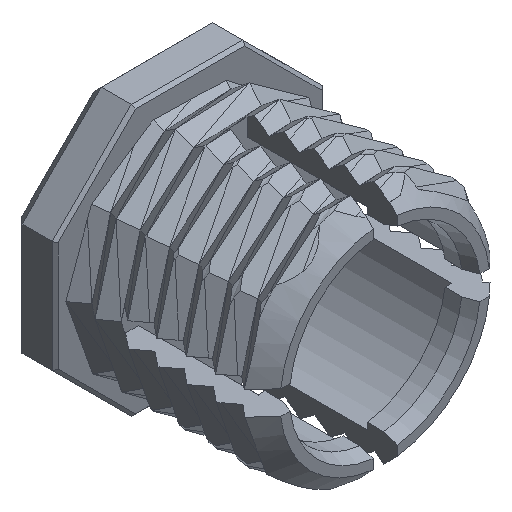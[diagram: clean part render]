
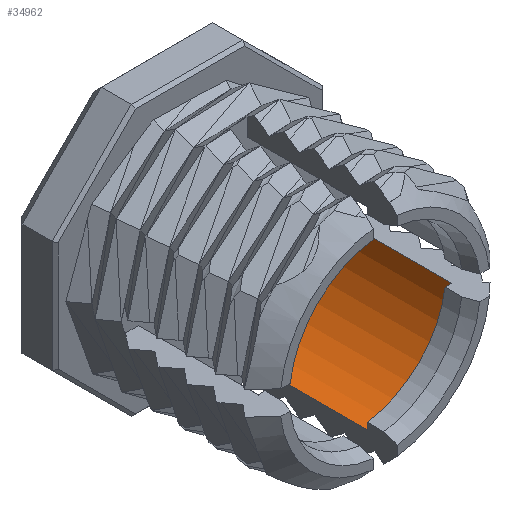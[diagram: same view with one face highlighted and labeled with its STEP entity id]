
A CAD part, isometric view. The second image highlights one B-rep face of the part: STEP entity #34962.
In plain terms, the highlighted cylindrical face has radius 8.255 mm (diameter 16.51 mm), a partial arc.
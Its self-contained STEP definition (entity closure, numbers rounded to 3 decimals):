
#322 = PLANE('',#323);
#323 = AXIS2_PLACEMENT_3D('',#324,#325,#326);
#324 = CARTESIAN_POINT('',(0.,9.29,7.939));
#325 = DIRECTION('',(0.,1.,0.));
#326 = DIRECTION('',(-1.,0.,0.));
#1311 = PLANE('',#1312);
#1312 = AXIS2_PLACEMENT_3D('',#1313,#1314,#1315);
#1313 = CARTESIAN_POINT('',(16.129,-3.41,-1.016));
#1314 = DIRECTION('',(0.,0.,-1.));
#1315 = DIRECTION('',(0.,1.,0.));
#1394 = PLANE('',#1395);
#1395 = AXIS2_PLACEMENT_3D('',#1396,#1397,#1398);
#1396 = CARTESIAN_POINT('',(1.016,-3.41,-6.059));
#1397 = DIRECTION('',(1.,0.,0.));
#1398 = DIRECTION('',(0.,1.,0.));
#2114 = VERTEX_POINT('',#2115);
#2115 = CARTESIAN_POINT('',(8.192,9.29,-1.016));
#2136 = EDGE_CURVE('',#2137,#2114,#2139,.T.);
#2137 = VERTEX_POINT('',#2138);
#2138 = CARTESIAN_POINT('',(8.192,-0.87,-1.016));
#2139 = SURFACE_CURVE('',#2140,(#2144,#2151),.PCURVE_S1.);
#2140 = LINE('',#2141,#2142);
#2141 = CARTESIAN_POINT('',(8.192,-13.201,-1.016));
#2142 = VECTOR('',#2143,1.);
#2143 = DIRECTION('',(0.,1.,0.));
#2144 = PCURVE('',#1311,#2145);
#2145 = DEFINITIONAL_REPRESENTATION('',(#2146),#2150);
#2146 = LINE('',#2147,#2148);
#2147 = CARTESIAN_POINT('',(-9.791,-7.937));
#2148 = VECTOR('',#2149,1.);
#2149 = DIRECTION('',(1.,0.));
#2150 = ( GEOMETRIC_REPRESENTATION_CONTEXT(2) 
PARAMETRIC_REPRESENTATION_CONTEXT() REPRESENTATION_CONTEXT('2D SPACE',''
  ) );
#2151 = PCURVE('',#2152,#2157);
#2152 = CYLINDRICAL_SURFACE('',#2153,8.255);
#2153 = AXIS2_PLACEMENT_3D('',#2154,#2155,#2156);
#2154 = CARTESIAN_POINT('',(0.,-13.201,0.
    ));
#2155 = DIRECTION('',(0.,-1.,0.));
#2156 = DIRECTION('',(1.,0.,0.));
#2157 = DEFINITIONAL_REPRESENTATION('',(#2158),#2161);
#2158 = B_SPLINE_CURVE_WITH_KNOTS('',1,(#2159,#2160),.UNSPECIFIED.,.F.,
  .F.,(2,2),(12.331,22.491),.PIECEWISE_BEZIER_KNOTS.);
#2159 = CARTESIAN_POINT('',(6.16,-12.331));
#2160 = CARTESIAN_POINT('',(6.16,-22.491));
#2161 = ( GEOMETRIC_REPRESENTATION_CONTEXT(2) 
PARAMETRIC_REPRESENTATION_CONTEXT() REPRESENTATION_CONTEXT('2D SPACE',''
  ) );
#2179 = PLANE('',#2180);
#2180 = AXIS2_PLACEMENT_3D('',#2181,#2182,#2183);
#2181 = CARTESIAN_POINT('',(0.,-0.87,7.685));
#2182 = DIRECTION('',(0.,1.,0.));
#2183 = DIRECTION('',(-1.,0.,0.));
#3975 = VERTEX_POINT('',#3976);
#3976 = CARTESIAN_POINT('',(1.016,-0.87,-8.192));
#3997 = EDGE_CURVE('',#3998,#3975,#4000,.T.);
#3998 = VERTEX_POINT('',#3999);
#3999 = CARTESIAN_POINT('',(1.016,9.29,-8.192));
#4000 = SURFACE_CURVE('',#4001,(#4005,#4012),.PCURVE_S1.);
#4001 = LINE('',#4002,#4003);
#4002 = CARTESIAN_POINT('',(1.016,-13.201,-8.192));
#4003 = VECTOR('',#4004,1.);
#4004 = DIRECTION('',(0.,-1.,0.));
#4005 = PCURVE('',#1394,#4006);
#4006 = DEFINITIONAL_REPRESENTATION('',(#4007),#4011);
#4007 = LINE('',#4008,#4009);
#4008 = CARTESIAN_POINT('',(-9.791,-2.134));
#4009 = VECTOR('',#4010,1.);
#4010 = DIRECTION('',(-1.,0.));
#4011 = ( GEOMETRIC_REPRESENTATION_CONTEXT(2) 
PARAMETRIC_REPRESENTATION_CONTEXT() REPRESENTATION_CONTEXT('2D SPACE',''
  ) );
#4012 = PCURVE('',#2152,#4013);
#4013 = DEFINITIONAL_REPRESENTATION('',(#4014),#4017);
#4014 = B_SPLINE_CURVE_WITH_KNOTS('',1,(#4015,#4016),.UNSPECIFIED.,.F.,
  .F.,(2,2),(-22.491,-12.331),.PIECEWISE_BEZIER_KNOTS.);
#4015 = CARTESIAN_POINT('',(4.836,-22.491));
#4016 = CARTESIAN_POINT('',(4.836,-12.331));
#4017 = ( GEOMETRIC_REPRESENTATION_CONTEXT(2) 
PARAMETRIC_REPRESENTATION_CONTEXT() REPRESENTATION_CONTEXT('2D SPACE',''
  ) );
#33480 = EDGE_CURVE('',#3998,#2114,#33481,.T.);
#33481 = SURFACE_CURVE('',#33482,(#33487,#33498),.PCURVE_S1.);
#33482 = CIRCLE('',#33483,8.255);
#33483 = AXIS2_PLACEMENT_3D('',#33484,#33485,#33486);
#33484 = CARTESIAN_POINT('',(0.,9.29,0.));
#33485 = DIRECTION('',(0.,-1.,0.));
#33486 = DIRECTION('',(1.,0.,0.));
#33487 = PCURVE('',#322,#33488);
#33488 = DEFINITIONAL_REPRESENTATION('',(#33489),#33497);
#33489 = ( BOUNDED_CURVE() B_SPLINE_CURVE(2,(#33490,#33491,#33492,#33493
    ,#33494,#33495,#33496),.UNSPECIFIED.,.T.,.F.) 
B_SPLINE_CURVE_WITH_KNOTS((1,2,2,2,2,1),(-2.094,0.,
    2.094,4.189,6.283,8.378),
.UNSPECIFIED.) CURVE() GEOMETRIC_REPRESENTATION_ITEM() 
RATIONAL_B_SPLINE_CURVE((1.,0.5,1.,0.5,1.,0.5,1.)) REPRESENTATION_ITEM(
  '') );
#33490 = CARTESIAN_POINT('',(-8.255,-7.939));
#33491 = CARTESIAN_POINT('',(-8.255,6.359));
#33492 = CARTESIAN_POINT('',(4.128,-0.79));
#33493 = CARTESIAN_POINT('',(16.51,-7.939));
#33494 = CARTESIAN_POINT('',(4.128,-15.088));
#33495 = CARTESIAN_POINT('',(-8.255,-22.237));
#33496 = CARTESIAN_POINT('',(-8.255,-7.939));
#33497 = ( GEOMETRIC_REPRESENTATION_CONTEXT(2) 
PARAMETRIC_REPRESENTATION_CONTEXT() REPRESENTATION_CONTEXT('2D SPACE',''
  ) );
#33498 = PCURVE('',#2152,#33499);
#33499 = DEFINITIONAL_REPRESENTATION('',(#33500),#33503);
#33500 = B_SPLINE_CURVE_WITH_KNOTS('',1,(#33501,#33502),.UNSPECIFIED.,
  .F.,.F.,(2,2),(4.836,6.16),
  .PIECEWISE_BEZIER_KNOTS.);
#33501 = CARTESIAN_POINT('',(4.836,-22.491));
#33502 = CARTESIAN_POINT('',(6.16,-22.491));
#33503 = ( GEOMETRIC_REPRESENTATION_CONTEXT(2) 
PARAMETRIC_REPRESENTATION_CONTEXT() REPRESENTATION_CONTEXT('2D SPACE',''
  ) );
#34936 = EDGE_CURVE('',#3975,#2137,#34937,.T.);
#34937 = SURFACE_CURVE('',#34938,(#34943,#34954),.PCURVE_S1.);
#34938 = CIRCLE('',#34939,8.255);
#34939 = AXIS2_PLACEMENT_3D('',#34940,#34941,#34942);
#34940 = CARTESIAN_POINT('',(0.,-0.87,0.));
#34941 = DIRECTION('',(0.,-1.,0.));
#34942 = DIRECTION('',(1.,0.,0.));
#34943 = PCURVE('',#2179,#34944);
#34944 = DEFINITIONAL_REPRESENTATION('',(#34945),#34953);
#34945 = ( BOUNDED_CURVE() B_SPLINE_CURVE(2,(#34946,#34947,#34948,#34949
    ,#34950,#34951,#34952),.UNSPECIFIED.,.T.,.F.) 
B_SPLINE_CURVE_WITH_KNOTS((1,2,2,2,2,1),(-2.094,0.,
    2.094,4.189,6.283,8.378),
.UNSPECIFIED.) CURVE() GEOMETRIC_REPRESENTATION_ITEM() 
RATIONAL_B_SPLINE_CURVE((1.,0.5,1.,0.5,1.,0.5,1.)) REPRESENTATION_ITEM(
  '') );
#34946 = CARTESIAN_POINT('',(-8.255,-7.685));
#34947 = CARTESIAN_POINT('',(-8.255,6.613));
#34948 = CARTESIAN_POINT('',(4.128,-0.536));
#34949 = CARTESIAN_POINT('',(16.51,-7.685));
#34950 = CARTESIAN_POINT('',(4.128,-14.834));
#34951 = CARTESIAN_POINT('',(-8.255,-21.983));
#34952 = CARTESIAN_POINT('',(-8.255,-7.685));
#34953 = ( GEOMETRIC_REPRESENTATION_CONTEXT(2) 
PARAMETRIC_REPRESENTATION_CONTEXT() REPRESENTATION_CONTEXT('2D SPACE',''
  ) );
#34954 = PCURVE('',#2152,#34955);
#34955 = DEFINITIONAL_REPRESENTATION('',(#34956),#34959);
#34956 = B_SPLINE_CURVE_WITH_KNOTS('',1,(#34957,#34958),.UNSPECIFIED.,
  .F.,.F.,(2,2),(4.836,6.16),
  .PIECEWISE_BEZIER_KNOTS.);
#34957 = CARTESIAN_POINT('',(4.836,-12.331));
#34958 = CARTESIAN_POINT('',(6.16,-12.331));
#34959 = ( GEOMETRIC_REPRESENTATION_CONTEXT(2) 
PARAMETRIC_REPRESENTATION_CONTEXT() REPRESENTATION_CONTEXT('2D SPACE',''
  ) );
#34962 = ADVANCED_FACE('',(#34963),#2152,.F.);
#34963 = FACE_BOUND('',#34964,.F.);
#34964 = EDGE_LOOP('',(#34965,#34966,#34967,#34968));
#34965 = ORIENTED_EDGE('',*,*,#2136,.F.);
#34966 = ORIENTED_EDGE('',*,*,#34936,.F.);
#34967 = ORIENTED_EDGE('',*,*,#3997,.F.);
#34968 = ORIENTED_EDGE('',*,*,#33480,.T.);
